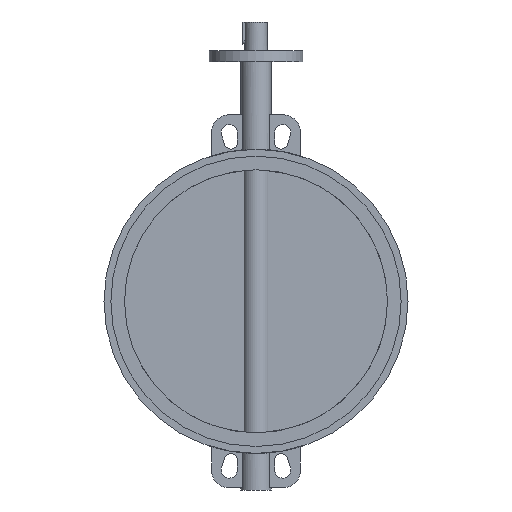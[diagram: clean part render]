
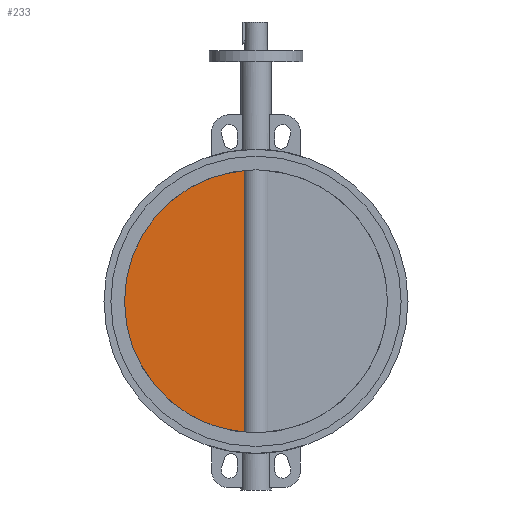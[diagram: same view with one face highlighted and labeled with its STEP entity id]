
A CAD part, left-side view. The second image highlights one B-rep face of the part: STEP entity #233.
In plain terms, the highlighted planar face has unit normal (-1, 0, 0).
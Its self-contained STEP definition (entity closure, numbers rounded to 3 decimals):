
#233=ADVANCED_FACE('',(#7062),#7064,.F.);
#7062=FACE_BOUND('',#7063,.T.);
#7063=EDGE_LOOP('',(#12461,#12462,#12463));
#7064=PLANE('',#7065);
#7065=AXIS2_PLACEMENT_3D('',#7066,#7067,#7068);
#7066=CARTESIAN_POINT('',(-14.,0.,0.));
#7067=DIRECTION('',(1.,0.,0.));
#7068=DIRECTION('',(0.,1.,0.));
#12461=ORIENTED_EDGE('',*,*,#16760,.T.);
#12462=ORIENTED_EDGE('',*,*,#16672,.T.);
#12463=ORIENTED_EDGE('',*,*,#16676,.T.);
#16672=EDGE_CURVE('',#18861,#18862,#18863,.F.);
#16676=EDGE_CURVE('',#18862,#18868,#18870,.F.);
#16760=EDGE_CURVE('',#18868,#18861,#19021,.F.);
#18861=VERTEX_POINT('',#22845);
#18862=VERTEX_POINT('',#22846);
#18863=CIRCLE('',#22847,296.25);
#18868=VERTEX_POINT('',#22890);
#18870=CIRCLE('',#22924,296.25);
#19021=LINE('',#23281,#23282);
#22845=CARTESIAN_POINT('',(-14.,26.533,295.059));
#22846=CARTESIAN_POINT('',(-14.,296.25,0.));
#22847=AXIS2_PLACEMENT_3D('',#22848,#22849,#22850);
#22848=CARTESIAN_POINT('',(-14.,0.,0.));
#22849=DIRECTION('',(1.,0.,0.));
#22850=DIRECTION('',(0.,1.,0.));
#22890=CARTESIAN_POINT('',(-14.,26.533,-295.059));
#22924=AXIS2_PLACEMENT_3D('',#22925,#22926,#22927);
#22925=CARTESIAN_POINT('',(-14.,0.,0.));
#22926=DIRECTION('',(1.,0.,0.));
#22927=DIRECTION('',(0.,0.09,-0.996));
#23281=CARTESIAN_POINT('',(-14.,26.533,295.059));
#23282=VECTOR('',#23283,1.);
#23283=DIRECTION('',(0.,0.,-1.));
